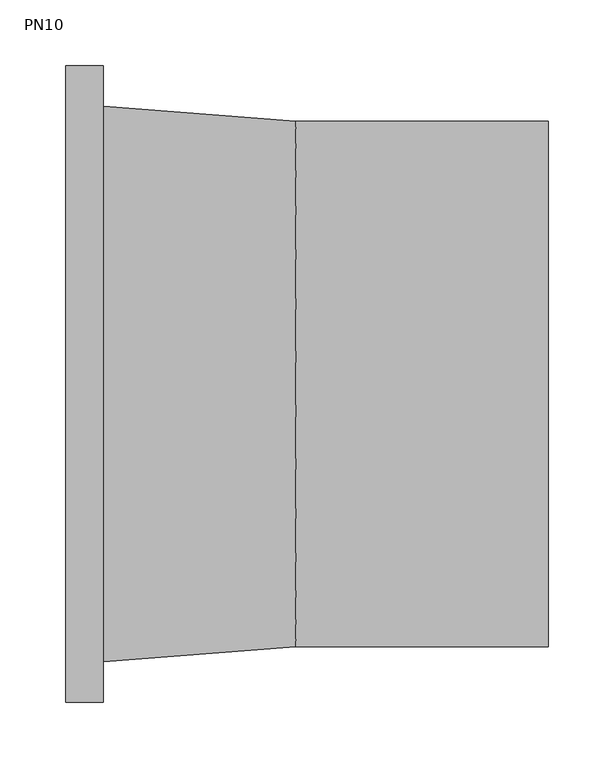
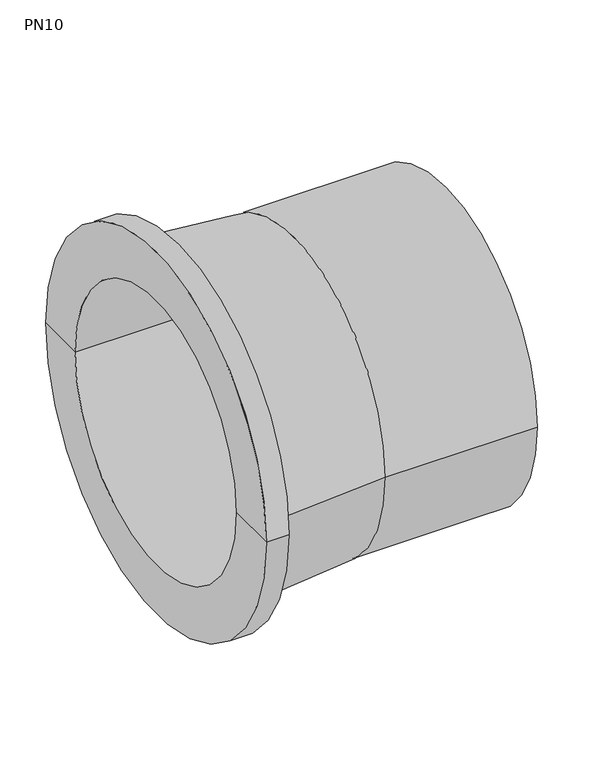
"""IFC4 building model written with IfcOpenShell, lengths in millimetres: pipe fitting geometry, PavcoWavin_UnionesDeTuberia_PEAD Acuaflex_Portaflanche : PN10."""

from ifc_helpers import new_model, si_unit, frame, origin, place, context, project, spatial, polyline, circle_curve, source, transform, mapped, element, save
from ifc_brep_helpers import plane_surface, cylinder_surface, revolved_surface, advanced_brep


def pn10_7f7526d7(model_context):
    return source(origin(), model_context, "Body", "AdvancedBrep", [
        advanced_brep(
        [(-175.3, -177.4, 0.0), (-175.3, 177.4, 0.0), (-175.3, 242.425, 0.0), (-175.3, -242.425, 0.0), (192.25, -177.4, 0.0), (192.25, 177.4, 0.0), (192.25, -200.0, 0.0), (192.25, 200.0, 0.0), (0.0, -200.0, 0.0), (0.0, 200.0, 0.0), (-146.75, -211.55, 0.0), (-146.75, 211.55, 0.0), (-146.75, -242.425, 0.0), (-146.75, 242.425, 0.0)],
        [
            (0, 1, circle_curve(frame((-175.3, 0.0, 0.0), z_axis=(1.0, 0.0, 0.0), x_axis=(0.0, 1.0, 0.0)), 177.4)),
            (1, 2),
            (2, 3, circle_curve(frame((-175.3, 0.0, 0.0), z_axis=(-1.0, 0.0, 0.0), x_axis=(0.0, 1.0, 0.0)), 242.425)),
            (3, 0),
            (1, 0, circle_curve(frame((-175.3, 0.0, 0.0), z_axis=(1.0, 0.0, 0.0), x_axis=(0.0, 1.0, 0.0)), 177.4)),
            (3, 2, circle_curve(frame((-175.3, 0.0, 0.0), z_axis=(-1.0, 0.0, 0.0), x_axis=(0.0, 1.0, 0.0)), 242.425)),
            (4, 5, circle_curve(frame((192.25, 0.0, 0.0), z_axis=(1.0, 0.0, 0.0), x_axis=(0.0, 1.0, 0.0)), 177.4)),
            (5, 1),
            (0, 4),
            (5, 4, circle_curve(frame((192.25, 0.0, 0.0), z_axis=(1.0, 0.0, 0.0), x_axis=(0.0, 1.0, 0.0)), 177.4)),
            (6, 7, circle_curve(frame((192.25, 0.0, 0.0), z_axis=(1.0, 0.0, 0.0), x_axis=(0.0, 1.0, 0.0)), 200.0)),
            (7, 5),
            (4, 6),
            (7, 6, circle_curve(frame((192.25, 0.0, 0.0), z_axis=(1.0, 0.0, 0.0), x_axis=(0.0, 1.0, 0.0)), 200.0)),
            (8, 9, circle_curve(frame((0.0, 0.0, 0.0), z_axis=(1.0, 0.0, 0.0), x_axis=(0.0, 1.0, 0.0)), 200.0)),
            (9, 7),
            (6, 8),
            (9, 8, circle_curve(frame((0.0, 0.0, 0.0), z_axis=(1.0, 0.0, 0.0), x_axis=(0.0, 1.0, 0.0)), 200.0)),
            (10, 11, circle_curve(frame((-146.75, 0.0, 0.0), z_axis=(1.0, 0.0, 0.0), x_axis=(0.0, 1.0, 0.0)), 211.55)),
            (11, 9),
            (8, 10),
            (11, 10, circle_curve(frame((-146.75, 0.0, 0.0), z_axis=(1.0, 0.0, 0.0), x_axis=(0.0, 1.0, 0.0)), 211.55)),
            (12, 13, circle_curve(frame((-146.75, 0.0, 0.0), z_axis=(1.0, 0.0, 0.0), x_axis=(0.0, 1.0, 0.0)), 242.425)),
            (13, 11),
            (10, 12),
            (13, 12, circle_curve(frame((-146.75, 0.0, 0.0), z_axis=(1.0, 0.0, 0.0), x_axis=(0.0, 1.0, 0.0)), 242.425)),
            (2, 13),
            (12, 3),
        ],
        [
            plane_surface(frame((-175.3, 0.0, 0.0), z_axis=(-1.0, 0.0, 0.0), x_axis=(0.0, 1.0, 0.0))),
            revolved_surface(polyline([(-175.30000000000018, 177.4, 0.0), (192.25, 177.4, 0.0)]), (2121.95, 0.0, 0.0), (-1.0, 0.0, 0.0)),
            plane_surface(frame((192.25, 0.0, 0.0), z_axis=(1.0, 0.0, 0.0), x_axis=(0.0, 1.0, 0.0))),
            cylinder_surface(frame((2121.95, 0.0, 0.0), z_axis=(-1.0, 0.0, 0.0), x_axis=(0.0, 1.0, 0.0)), 200.0),
            revolved_surface(polyline([(0.0, 200.0, 0.0), (-146.75, 211.55, 0.0)]), (2121.95, 0.0, 0.0), (-1.0, 0.0, 0.0)),
            plane_surface(frame((-146.75, 0.0, 0.0), z_axis=(1.0, 0.0, 0.0), x_axis=(0.0, 1.0, 0.0))),
            cylinder_surface(frame((2121.95, 0.0, 0.0), z_axis=(-1.0, 0.0, 0.0), x_axis=(0.0, 1.0, 0.0)), 242.425),
        ],
        [
            (0, [[1, 2, 3, 4]]),
            (0, [[5, -4, 6, -2]]),
            (1, [[7, 8, -1, 9]]),
            (1, [[10, -9, -5, -8]]),
            (2, [[11, 12, -7, 13]]),
            (2, [[14, -13, -10, -12]]),
            (3, [[15, 16, -11, 17]]),
            (3, [[18, -17, -14, -16]]),
            (4, [[19, 20, -15, 21]]),
            (4, [[22, -21, -18, -20]]),
            (5, [[23, 24, -19, 25]]),
            (5, [[26, -25, -22, -24]]),
            (6, [[-3, 27, -23, 28]]),
            (6, [[-6, -28, -26, -27]]),
        ],
    ),
    ])


if __name__ == "__main__":
    model = new_model("IFC4")
    model_context = context("Model", 3, world=origin())
    ifc_project = project(units=[si_unit("LENGTHUNIT", "METRE", prefix="MILLI")], contexts=[model_context])
    site = spatial("IfcSite", under=ifc_project)
    building = spatial("IfcBuilding", under=site)
    placement = place(None, origin())
    pn10_shape = pn10_7f7526d7(model_context)
    element("IfcPipeFitting", 1, ObjectType="PavcoWavin_UnionesDeTuberia_PEAD Acuaflex_Portaflanche : PN10", at=placement, inside=building, context=model_context, shape_type="MappedRepresentation", body=[
        mapped(pn10_shape, transform((0.0, 0.0, 0.0), x_axis=(1.0, 0.0, 0.0), y_axis=(0.0, 1.0, 0.0), z_axis=(0.0, 0.0, 1.0))),
    ])
    save(model, "model.ifc")
